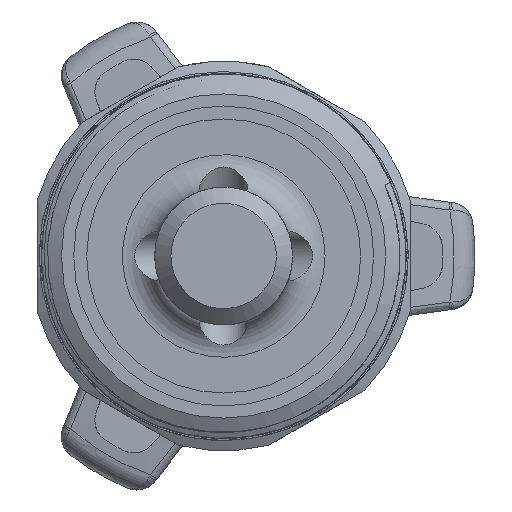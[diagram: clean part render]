
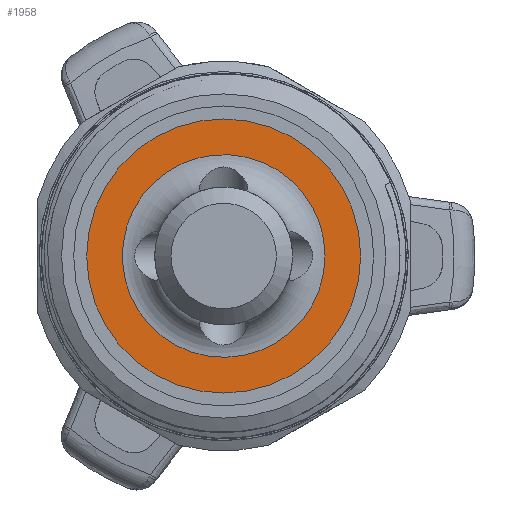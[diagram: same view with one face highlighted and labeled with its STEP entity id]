
A CAD part, front view. The second image highlights one B-rep face of the part: STEP entity #1958.
In plain terms, the highlighted planar face has unit normal (0, -1, 0).
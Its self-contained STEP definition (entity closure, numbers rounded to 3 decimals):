
#981=PLANE('',#7826);
#1612=CIRCLE('',#7823,19.5);
#1613=CIRCLE('',#7825,12.5);
#1958=ADVANCED_FACE('',(#2594,#2595),#981,.F.);
#2594=FACE_BOUND('',#2834,.T.);
#2595=FACE_BOUND('',#2835,.T.);
#2834=EDGE_LOOP('',(#3469));
#2835=EDGE_LOOP('',(#3470));
#3469=ORIENTED_EDGE('',*,*,#6345,.F.);
#3470=ORIENTED_EDGE('',*,*,#6344,.T.);
#5636=VERTEX_POINT('',#11012);
#5637=VERTEX_POINT('',#11015);
#6344=EDGE_CURVE('',#5636,#5636,#1612,.T.);
#6345=EDGE_CURVE('',#5637,#5637,#1613,.T.);
#7823=AXIS2_PLACEMENT_3D('',#11011,#8667,#8668);
#7825=AXIS2_PLACEMENT_3D('',#11014,#8671,#8672);
#7826=AXIS2_PLACEMENT_3D('',#11016,#8673,#8674);
#8667=DIRECTION('',(0.,-1.,0.));
#8668=DIRECTION('',(1.,0.,0.));
#8671=DIRECTION('',(0.,-1.,0.));
#8672=DIRECTION('',(1.,0.,0.));
#8673=DIRECTION('',(0.,1.,0.));
#8674=DIRECTION('',(1.,0.,0.));
#11011=CARTESIAN_POINT('',(7.801,-59.308,0.));
#11012=CARTESIAN_POINT('',(27.301,-59.308,0.));
#11014=CARTESIAN_POINT('',(7.801,-59.308,0.));
#11015=CARTESIAN_POINT('',(20.301,-59.308,0.));
#11016=CARTESIAN_POINT('',(7.801,-59.308,19.5));
